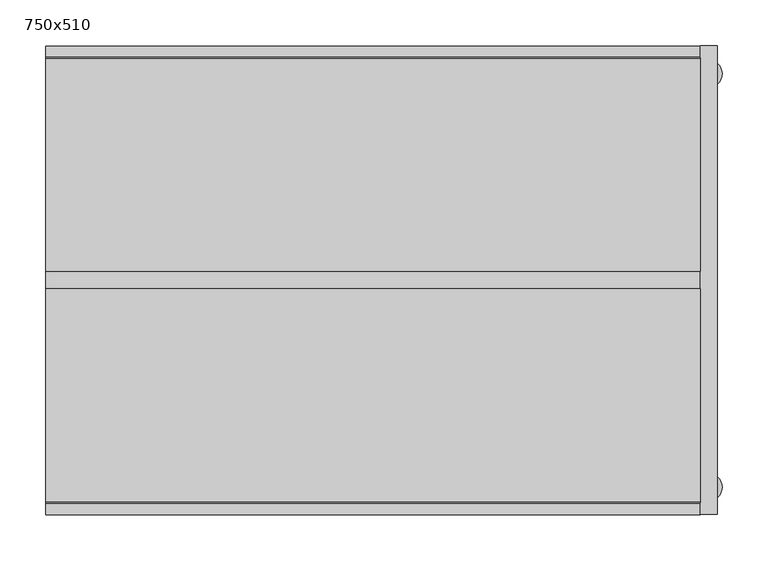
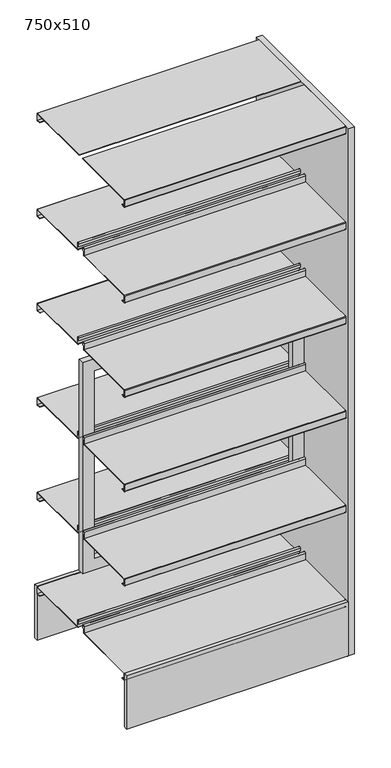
"""IFC4 building model written with IfcOpenShell, lengths in millimetres: furniture geometry, BK Library - Rondus DF - 1800 : 750x510."""

from ifc_helpers import new_model, si_unit, point, frame, frame_2d, origin, origin_with_axes, place, context, project, spatial, polyline, circle_curve, trimmed, segment, composite_curve, outline, extrude, source, transform, mapped, element, save


def furniture_750x510_ac6173c1(model_context):
    return source(origin(), model_context, "Body", "SweptSolid", [
        extrude(outline(polyline([(356.0, 255.0), (356.0, 242.7476624), (-356.0, 242.7476624), (-356.0, 255.0), (356.0, 255.0)])), frame((0.0, 0.0, 13.6999998), z_axis=(0.0, 0.0, 1.0), x_axis=(1.0, 0.0, 0.0)), (0.0, 0.0, 1.0), 181.4999514),
        extrude(outline(polyline([(356.0, -242.7476624), (356.0, -255.0), (-356.0, -255.0), (-356.0, -242.7476624), (356.0, -242.7476624)])), frame((0.0, 0.0, 13.6999998), z_axis=(0.0, 0.0, 1.0), x_axis=(1.0, 0.0, 0.0)), (0.0, 0.0, 1.0), 181.4999514),
        extrude(outline(polyline([(1106.1999512, -356.0), (391.1999512, -356.0), (391.1999512, 356.0), (1106.1999512, 356.0), (1106.1999512, -356.0)]), holes=[polyline([(1066.1999514, -317.5), (1066.1999514, 317.5), (431.1999514, 317.5), (431.1999514, -317.5), (1066.1999514, -317.5)])]), frame((0.0, -9.5, 0.0), z_axis=(0.0, 1.0, 0.0), x_axis=(0.0, 0.0, 1.0)), (0.0, 0.0, 1.0), 19.0),
        extrude(outline(composite_curve([segment(polyline([(9.5, 1800.0), (241.25, 1800.0)]), True, "CONTINUOUS"), segment(trimmed(circle_curve(frame_2d((241.25, 1798.5)), 1.5), [point((241.25, 1800.0))], [point((242.75, 1798.5))], False, "CARTESIAN"), True, "CONTINUOUS"), segment(polyline([(242.75, 1798.5), (242.75, 1776.5)]), True, "CONTINUOUS"), segment(trimmed(circle_curve(frame_2d((241.25, 1776.5)), 1.5), [point((242.75, 1776.5))], [point((241.25, 1775.0))], False, "CARTESIAN"), True, "CONTINUOUS"), segment(polyline([(241.25, 1775.0), (229.25, 1775.0), (229.25, 1776.5), (241.25, 1776.5), (241.25, 1798.0), (9.5, 1798.0), (9.5, 1800.0)]), True, "CONTINUOUS")], self_intersect=False)), frame((-356.0, 0.0, 0.0), z_axis=(1.0, 0.0, 0.0), x_axis=(0.0, 1.0, 0.0)), (0.0, 0.0, 1.0), 712.0),
        extrude(outline(composite_curve([segment(polyline([(17.75, 1475.1999512), (241.25, 1475.1999512)]), True, "CONTINUOUS"), segment(trimmed(circle_curve(frame_2d((241.25, 1473.6999512)), 1.5), [point((241.25, 1475.1999512))], [point((242.75, 1473.6999512))], False, "CARTESIAN"), True, "CONTINUOUS"), segment(polyline([(242.75, 1473.6999512), (242.75, 1452.1999512)]), True, "CONTINUOUS"), segment(trimmed(circle_curve(frame_2d((241.25, 1452.1999512)), 1.5), [point((242.75, 1452.1999512))], [point((241.25, 1450.6999512))], False, "CARTESIAN"), True, "CONTINUOUS"), segment(polyline([(241.25, 1450.6999512), (229.25, 1450.6999512), (229.25, 1452.1999512), (241.25, 1452.1999512), (241.25, 1473.6999512), (17.7048221, 1473.6999512)]), True, "CONTINUOUS"), segment(trimmed(circle_curve(frame_2d((17.7048221, 1475.1547733)), 1.4548221), [point((17.7048221, 1473.6999512))], [point((16.25, 1475.1547733))], False, "CARTESIAN"), True, "CONTINUOUS"), segment(polyline([(16.25, 1475.1547733), (16.25, 1496.7020126)]), True, "CONTINUOUS"), segment(trimmed(circle_curve(frame_2d((14.25, 1496.7020126)), 2.0), [point((16.25, 1496.7020126))], [point((12.25, 1496.7020126))], True, "CARTESIAN"), True, "CONTINUOUS"), segment(polyline([(12.25, 1496.7020126), (12.25, 1488.1999512), (10.75, 1488.1999512), (10.75, 1496.7196336)]), True, "CONTINUOUS"), segment(trimmed(circle_curve(frame_2d((14.25, 1496.7196336)), 3.5), [point((10.75, 1496.7196336))], [point((17.75, 1496.7196336))], False, "CARTESIAN"), True, "CONTINUOUS"), segment(polyline([(17.75, 1496.7196336), (17.75, 1475.1999512)]), True, "CONTINUOUS")], self_intersect=False)), frame((-356.0, 0.0, 0.0), z_axis=(1.0, 0.0, 0.0), x_axis=(0.0, 1.0, 0.0)), (0.0, 0.0, 1.0), 712.0),
        extrude(outline(composite_curve([segment(polyline([(17.75, 1155.1999512), (241.25, 1155.1999512)]), True, "CONTINUOUS"), segment(trimmed(circle_curve(frame_2d((241.25, 1153.6999512)), 1.5), [point((241.25, 1155.1999512))], [point((242.75, 1153.6999512))], False, "CARTESIAN"), True, "CONTINUOUS"), segment(polyline([(242.75, 1153.6999512), (242.75, 1132.1999512)]), True, "CONTINUOUS"), segment(trimmed(circle_curve(frame_2d((241.25, 1132.1999512)), 1.5), [point((242.75, 1132.1999512))], [point((241.25, 1130.6999512))], False, "CARTESIAN"), True, "CONTINUOUS"), segment(polyline([(241.25, 1130.6999512), (229.25, 1130.6999512), (229.25, 1132.1999512), (241.25, 1132.1999512), (241.25, 1153.6999512), (17.7048221, 1153.6999512)]), True, "CONTINUOUS"), segment(trimmed(circle_curve(frame_2d((17.7048221, 1155.1547733)), 1.4548221), [point((17.7048221, 1153.6999512))], [point((16.25, 1155.1547733))], False, "CARTESIAN"), True, "CONTINUOUS"), segment(polyline([(16.25, 1155.1547733), (16.25, 1176.7020126)]), True, "CONTINUOUS"), segment(trimmed(circle_curve(frame_2d((14.25, 1176.7020126)), 2.0), [point((16.25, 1176.7020126))], [point((12.25, 1176.7020126))], True, "CARTESIAN"), True, "CONTINUOUS"), segment(polyline([(12.25, 1176.7020126), (12.25, 1168.1999512), (10.75, 1168.1999512), (10.75, 1176.7196336)]), True, "CONTINUOUS"), segment(trimmed(circle_curve(frame_2d((14.25, 1176.7196336)), 3.5), [point((10.75, 1176.7196336))], [point((17.75, 1176.7196336))], False, "CARTESIAN"), True, "CONTINUOUS"), segment(polyline([(17.75, 1176.7196336), (17.75, 1155.1999512)]), True, "CONTINUOUS")], self_intersect=False)), frame((-356.0, 0.0, 0.0), z_axis=(1.0, 0.0, 0.0), x_axis=(0.0, 1.0, 0.0)), (0.0, 0.0, 1.0), 712.0),
        extrude(outline(composite_curve([segment(polyline([(17.75, 835.1999512), (241.25, 835.1999512)]), True, "CONTINUOUS"), segment(trimmed(circle_curve(frame_2d((241.25, 833.6999512)), 1.5), [point((241.25, 835.1999512))], [point((242.75, 833.6999512))], False, "CARTESIAN"), True, "CONTINUOUS"), segment(polyline([(242.75, 833.6999512), (242.75, 812.1999512)]), True, "CONTINUOUS"), segment(trimmed(circle_curve(frame_2d((241.25, 812.1999512)), 1.5), [point((242.75, 812.1999512))], [point((241.25, 810.6999512))], False, "CARTESIAN"), True, "CONTINUOUS"), segment(polyline([(241.25, 810.6999512), (229.25, 810.6999512), (229.25, 812.1999512), (241.25, 812.1999512), (241.25, 833.6999512), (17.7048221, 833.6999512)]), True, "CONTINUOUS"), segment(trimmed(circle_curve(frame_2d((17.7048221, 835.1547733)), 1.4548221), [point((17.7048221, 833.6999512))], [point((16.25, 835.1547733))], False, "CARTESIAN"), True, "CONTINUOUS"), segment(polyline([(16.25, 835.1547733), (16.25, 856.7020126)]), True, "CONTINUOUS"), segment(trimmed(circle_curve(frame_2d((14.25, 856.7020126)), 2.0), [point((16.25, 856.7020126))], [point((12.25, 856.7020126))], True, "CARTESIAN"), True, "CONTINUOUS"), segment(polyline([(12.25, 856.7020126), (12.25, 848.1999512), (10.75, 848.1999512), (10.75, 856.7196336)]), True, "CONTINUOUS"), segment(trimmed(circle_curve(frame_2d((14.25, 856.7196336)), 3.5), [point((10.75, 856.7196336))], [point((17.75, 856.7196336))], False, "CARTESIAN"), True, "CONTINUOUS"), segment(polyline([(17.75, 856.7196336), (17.75, 835.1999512)]), True, "CONTINUOUS")], self_intersect=False)), frame((-356.0, 0.0, 0.0), z_axis=(1.0, 0.0, 0.0), x_axis=(0.0, 1.0, 0.0)), (0.0, 0.0, 1.0), 712.0),
        extrude(outline(composite_curve([segment(polyline([(17.75, 515.1999512), (241.25, 515.1999512)]), True, "CONTINUOUS"), segment(trimmed(circle_curve(frame_2d((241.25, 513.6999512)), 1.5), [point((241.25, 515.1999512))], [point((242.75, 513.6999512))], False, "CARTESIAN"), True, "CONTINUOUS"), segment(polyline([(242.75, 513.6999512), (242.75, 492.1999512)]), True, "CONTINUOUS"), segment(trimmed(circle_curve(frame_2d((241.25, 492.1999512)), 1.5), [point((242.75, 492.1999512))], [point((241.25, 490.6999512))], False, "CARTESIAN"), True, "CONTINUOUS"), segment(polyline([(241.25, 490.6999512), (229.25, 490.6999512), (229.25, 492.1999512), (241.25, 492.1999512), (241.25, 513.6999512), (17.7048221, 513.6999512)]), True, "CONTINUOUS"), segment(trimmed(circle_curve(frame_2d((17.7048221, 515.1547733)), 1.4548221), [point((17.7048221, 513.6999512))], [point((16.25, 515.1547733))], False, "CARTESIAN"), True, "CONTINUOUS"), segment(polyline([(16.25, 515.1547733), (16.25, 536.7020126)]), True, "CONTINUOUS"), segment(trimmed(circle_curve(frame_2d((14.25, 536.7020126)), 2.0), [point((16.25, 536.7020126))], [point((12.25, 536.7020126))], True, "CARTESIAN"), True, "CONTINUOUS"), segment(polyline([(12.25, 536.7020126), (12.25, 528.1999512), (10.75, 528.1999512), (10.75, 536.7196336)]), True, "CONTINUOUS"), segment(trimmed(circle_curve(frame_2d((14.25, 536.7196336)), 3.5), [point((10.75, 536.7196336))], [point((17.75, 536.7196336))], False, "CARTESIAN"), True, "CONTINUOUS"), segment(polyline([(17.75, 536.7196336), (17.75, 515.1999512)]), True, "CONTINUOUS")], self_intersect=False)), frame((-356.0, 0.0, 0.0), z_axis=(1.0, 0.0, 0.0), x_axis=(0.0, 1.0, 0.0)), (0.0, 0.0, 1.0), 712.0),
        extrude(outline(composite_curve([segment(polyline([(17.75, 195.1999512), (241.25, 195.1999512)]), True, "CONTINUOUS"), segment(trimmed(circle_curve(frame_2d((241.25, 193.6999512)), 1.5), [point((241.25, 195.1999512))], [point((242.75, 193.6999512))], False, "CARTESIAN"), True, "CONTINUOUS"), segment(polyline([(242.75, 193.6999512), (242.75, 172.1999512)]), True, "CONTINUOUS"), segment(trimmed(circle_curve(frame_2d((241.25, 172.1999512)), 1.5), [point((242.75, 172.1999512))], [point((241.25, 170.6999512))], False, "CARTESIAN"), True, "CONTINUOUS"), segment(polyline([(241.25, 170.6999512), (229.25, 170.6999512), (229.25, 172.1999512), (241.25, 172.1999512), (241.25, 193.6999512), (17.7048221, 193.6999512)]), True, "CONTINUOUS"), segment(trimmed(circle_curve(frame_2d((17.7048221, 195.1547733)), 1.4548221), [point((17.7048221, 193.6999512))], [point((16.25, 195.1547733))], False, "CARTESIAN"), True, "CONTINUOUS"), segment(polyline([(16.25, 195.1547733), (16.25, 216.7020126)]), True, "CONTINUOUS"), segment(trimmed(circle_curve(frame_2d((14.25, 216.7020126)), 2.0), [point((16.25, 216.7020126))], [point((12.25, 216.7020126))], True, "CARTESIAN"), True, "CONTINUOUS"), segment(polyline([(12.25, 216.7020126), (12.25, 208.1999512), (10.75, 208.1999512), (10.75, 216.7196336)]), True, "CONTINUOUS"), segment(trimmed(circle_curve(frame_2d((14.25, 216.7196336)), 3.5), [point((10.75, 216.7196336))], [point((17.75, 216.7196336))], False, "CARTESIAN"), True, "CONTINUOUS"), segment(polyline([(17.75, 216.7196336), (17.75, 195.1999512)]), True, "CONTINUOUS")], self_intersect=False)), frame((-356.0, 0.0, 0.0), z_axis=(1.0, 0.0, 0.0), x_axis=(0.0, 1.0, 0.0)), (0.0, 0.0, 1.0), 712.0),
        extrude(outline(composite_curve([segment(polyline([(-9.5, 1800.0), (-9.5, 1798.0), (-241.25, 1798.0), (-241.25, 1776.5), (-229.25, 1776.5), (-229.25, 1775.0), (-241.25, 1775.0)]), True, "CONTINUOUS"), segment(trimmed(circle_curve(frame_2d((-241.25, 1776.5)), 1.5), [point((-241.25, 1775.0))], [point((-242.75, 1776.5))], False, "CARTESIAN"), True, "CONTINUOUS"), segment(polyline([(-242.75, 1776.5), (-242.75, 1798.5)]), True, "CONTINUOUS"), segment(trimmed(circle_curve(frame_2d((-241.25, 1798.5)), 1.5), [point((-242.75, 1798.5))], [point((-241.25, 1800.0))], False, "CARTESIAN"), True, "CONTINUOUS"), segment(polyline([(-241.25, 1800.0), (-9.5, 1800.0)]), True, "CONTINUOUS")], self_intersect=False)), frame((-356.0, 0.0, 0.0), z_axis=(1.0, 0.0, 0.0), x_axis=(0.0, 1.0, 0.0)), (0.0, 0.0, 1.0), 712.0),
        extrude(outline(composite_curve([segment(polyline([(-17.75, 1475.1999512), (-17.75, 1496.7196336)]), True, "CONTINUOUS"), segment(trimmed(circle_curve(frame_2d((-14.25, 1496.7196336)), 3.5), [point((-17.75, 1496.7196336))], [point((-10.75, 1496.7196336))], False, "CARTESIAN"), True, "CONTINUOUS"), segment(polyline([(-10.75, 1496.7196336), (-10.75, 1488.1999512), (-12.25, 1488.1999512), (-12.25, 1496.7020126)]), True, "CONTINUOUS"), segment(trimmed(circle_curve(frame_2d((-14.25, 1496.7020126)), 2.0), [point((-12.25, 1496.7020126))], [point((-16.25, 1496.7020126))], True, "CARTESIAN"), True, "CONTINUOUS"), segment(polyline([(-16.25, 1496.7020126), (-16.25, 1475.1547733)]), True, "CONTINUOUS"), segment(trimmed(circle_curve(frame_2d((-17.7048221, 1475.1547733)), 1.4548221), [point((-16.25, 1475.1547733))], [point((-17.7048221, 1473.6999512))], False, "CARTESIAN"), True, "CONTINUOUS"), segment(polyline([(-17.7048221, 1473.6999512), (-241.25, 1473.6999512), (-241.25, 1452.1999512), (-229.25, 1452.1999512), (-229.25, 1450.6999512), (-241.25, 1450.6999512)]), True, "CONTINUOUS"), segment(trimmed(circle_curve(frame_2d((-241.25, 1452.1999512)), 1.5), [point((-241.25, 1450.6999512))], [point((-242.75, 1452.1999512))], False, "CARTESIAN"), True, "CONTINUOUS"), segment(polyline([(-242.75, 1452.1999512), (-242.75, 1473.6999512)]), True, "CONTINUOUS"), segment(trimmed(circle_curve(frame_2d((-241.25, 1473.6999512)), 1.5), [point((-242.75, 1473.6999512))], [point((-241.25, 1475.1999512))], False, "CARTESIAN"), True, "CONTINUOUS"), segment(polyline([(-241.25, 1475.1999512), (-17.75, 1475.1999512)]), True, "CONTINUOUS")], self_intersect=False)), frame((-356.0, 0.0, 0.0), z_axis=(1.0, 0.0, 0.0), x_axis=(0.0, 1.0, 0.0)), (0.0, 0.0, 1.0), 712.0),
        extrude(outline(composite_curve([segment(polyline([(-17.75, 1155.1999512), (-17.75, 1176.7196336)]), True, "CONTINUOUS"), segment(trimmed(circle_curve(frame_2d((-14.25, 1176.7196336)), 3.5), [point((-17.75, 1176.7196336))], [point((-10.75, 1176.7196336))], False, "CARTESIAN"), True, "CONTINUOUS"), segment(polyline([(-10.75, 1176.7196336), (-10.75, 1168.1999512), (-12.25, 1168.1999512), (-12.25, 1176.7020126)]), True, "CONTINUOUS"), segment(trimmed(circle_curve(frame_2d((-14.25, 1176.7020126)), 2.0), [point((-12.25, 1176.7020126))], [point((-16.25, 1176.7020126))], True, "CARTESIAN"), True, "CONTINUOUS"), segment(polyline([(-16.25, 1176.7020126), (-16.25, 1155.1547733)]), True, "CONTINUOUS"), segment(trimmed(circle_curve(frame_2d((-17.7048221, 1155.1547733)), 1.4548221), [point((-16.25, 1155.1547733))], [point((-17.7048221, 1153.6999512))], False, "CARTESIAN"), True, "CONTINUOUS"), segment(polyline([(-17.7048221, 1153.6999512), (-241.25, 1153.6999512), (-241.25, 1132.1999512), (-229.25, 1132.1999512), (-229.25, 1130.6999512), (-241.25, 1130.6999512)]), True, "CONTINUOUS"), segment(trimmed(circle_curve(frame_2d((-241.25, 1132.1999512)), 1.5), [point((-241.25, 1130.6999512))], [point((-242.75, 1132.1999512))], False, "CARTESIAN"), True, "CONTINUOUS"), segment(polyline([(-242.75, 1132.1999512), (-242.75, 1153.6999512)]), True, "CONTINUOUS"), segment(trimmed(circle_curve(frame_2d((-241.25, 1153.6999512)), 1.5), [point((-242.75, 1153.6999512))], [point((-241.25, 1155.1999512))], False, "CARTESIAN"), True, "CONTINUOUS"), segment(polyline([(-241.25, 1155.1999512), (-17.75, 1155.1999512)]), True, "CONTINUOUS")], self_intersect=False)), frame((-356.0, 0.0, 0.0), z_axis=(1.0, 0.0, 0.0), x_axis=(0.0, 1.0, 0.0)), (0.0, 0.0, 1.0), 712.0),
        extrude(outline(composite_curve([segment(polyline([(-17.75, 835.1999512), (-17.75, 856.7196336)]), True, "CONTINUOUS"), segment(trimmed(circle_curve(frame_2d((-14.25, 856.7196336)), 3.5), [point((-17.75, 856.7196336))], [point((-10.75, 856.7196336))], False, "CARTESIAN"), True, "CONTINUOUS"), segment(polyline([(-10.75, 856.7196336), (-10.75, 848.1999512), (-12.25, 848.1999512), (-12.25, 856.7020126)]), True, "CONTINUOUS"), segment(trimmed(circle_curve(frame_2d((-14.25, 856.7020126)), 2.0), [point((-12.25, 856.7020126))], [point((-16.25, 856.7020126))], True, "CARTESIAN"), True, "CONTINUOUS"), segment(polyline([(-16.25, 856.7020126), (-16.25, 835.1547733)]), True, "CONTINUOUS"), segment(trimmed(circle_curve(frame_2d((-17.7048221, 835.1547733)), 1.4548221), [point((-16.25, 835.1547733))], [point((-17.7048221, 833.6999512))], False, "CARTESIAN"), True, "CONTINUOUS"), segment(polyline([(-17.7048221, 833.6999512), (-241.25, 833.6999512), (-241.25, 812.1999512), (-229.25, 812.1999512), (-229.25, 810.6999512), (-241.25, 810.6999512)]), True, "CONTINUOUS"), segment(trimmed(circle_curve(frame_2d((-241.25, 812.1999512)), 1.5), [point((-241.25, 810.6999512))], [point((-242.75, 812.1999512))], False, "CARTESIAN"), True, "CONTINUOUS"), segment(polyline([(-242.75, 812.1999512), (-242.75, 833.6999512)]), True, "CONTINUOUS"), segment(trimmed(circle_curve(frame_2d((-241.25, 833.6999512)), 1.5), [point((-242.75, 833.6999512))], [point((-241.25, 835.1999512))], False, "CARTESIAN"), True, "CONTINUOUS"), segment(polyline([(-241.25, 835.1999512), (-17.75, 835.1999512)]), True, "CONTINUOUS")], self_intersect=False)), frame((-356.0, 0.0, 0.0), z_axis=(1.0, 0.0, 0.0), x_axis=(0.0, 1.0, 0.0)), (0.0, 0.0, 1.0), 712.0),
        extrude(outline(composite_curve([segment(polyline([(-17.75, 515.1999512), (-17.75, 536.7196336)]), True, "CONTINUOUS"), segment(trimmed(circle_curve(frame_2d((-14.25, 536.7196336)), 3.5), [point((-17.75, 536.7196336))], [point((-10.75, 536.7196336))], False, "CARTESIAN"), True, "CONTINUOUS"), segment(polyline([(-10.75, 536.7196336), (-10.75, 528.1999512), (-12.25, 528.1999512), (-12.25, 536.7020126)]), True, "CONTINUOUS"), segment(trimmed(circle_curve(frame_2d((-14.25, 536.7020126)), 2.0), [point((-12.25, 536.7020126))], [point((-16.25, 536.7020126))], True, "CARTESIAN"), True, "CONTINUOUS"), segment(polyline([(-16.25, 536.7020126), (-16.25, 515.1547733)]), True, "CONTINUOUS"), segment(trimmed(circle_curve(frame_2d((-17.7048221, 515.1547733)), 1.4548221), [point((-16.25, 515.1547733))], [point((-17.7048221, 513.6999512))], False, "CARTESIAN"), True, "CONTINUOUS"), segment(polyline([(-17.7048221, 513.6999512), (-241.25, 513.6999512), (-241.25, 492.1999512), (-229.25, 492.1999512), (-229.25, 490.6999512), (-241.25, 490.6999512)]), True, "CONTINUOUS"), segment(trimmed(circle_curve(frame_2d((-241.25, 492.1999512)), 1.5), [point((-241.25, 490.6999512))], [point((-242.75, 492.1999512))], False, "CARTESIAN"), True, "CONTINUOUS"), segment(polyline([(-242.75, 492.1999512), (-242.75, 513.6999512)]), True, "CONTINUOUS"), segment(trimmed(circle_curve(frame_2d((-241.25, 513.6999512)), 1.5), [point((-242.75, 513.6999512))], [point((-241.25, 515.1999512))], False, "CARTESIAN"), True, "CONTINUOUS"), segment(polyline([(-241.25, 515.1999512), (-17.75, 515.1999512)]), True, "CONTINUOUS")], self_intersect=False)), frame((-356.0, 0.0, 0.0), z_axis=(1.0, 0.0, 0.0), x_axis=(0.0, 1.0, 0.0)), (0.0, 0.0, 1.0), 712.0),
        extrude(outline(composite_curve([segment(polyline([(-17.75, 195.1999512), (-17.75, 216.7196336)]), True, "CONTINUOUS"), segment(trimmed(circle_curve(frame_2d((-14.25, 216.7196336)), 3.5), [point((-17.75, 216.7196336))], [point((-10.75, 216.7196336))], False, "CARTESIAN"), True, "CONTINUOUS"), segment(polyline([(-10.75, 216.7196336), (-10.75, 208.1999512), (-12.25, 208.1999512), (-12.25, 216.7020126)]), True, "CONTINUOUS"), segment(trimmed(circle_curve(frame_2d((-14.25, 216.7020126)), 2.0), [point((-12.25, 216.7020126))], [point((-16.25, 216.7020126))], True, "CARTESIAN"), True, "CONTINUOUS"), segment(polyline([(-16.25, 216.7020126), (-16.25, 195.1547733)]), True, "CONTINUOUS"), segment(trimmed(circle_curve(frame_2d((-17.7048221, 195.1547733)), 1.4548221), [point((-16.25, 195.1547733))], [point((-17.7048221, 193.6999512))], False, "CARTESIAN"), True, "CONTINUOUS"), segment(polyline([(-17.7048221, 193.6999512), (-241.25, 193.6999512), (-241.25, 172.1999512), (-229.25, 172.1999512), (-229.25, 170.6999512), (-241.25, 170.6999512)]), True, "CONTINUOUS"), segment(trimmed(circle_curve(frame_2d((-241.25, 172.1999512)), 1.5), [point((-241.25, 170.6999512))], [point((-242.75, 172.1999512))], False, "CARTESIAN"), True, "CONTINUOUS"), segment(polyline([(-242.75, 172.1999512), (-242.75, 193.6999512)]), True, "CONTINUOUS"), segment(trimmed(circle_curve(frame_2d((-241.25, 193.6999512)), 1.5), [point((-242.75, 193.6999512))], [point((-241.25, 195.1999512))], False, "CARTESIAN"), True, "CONTINUOUS"), segment(polyline([(-241.25, 195.1999512), (-17.75, 195.1999512)]), True, "CONTINUOUS")], self_intersect=False)), frame((-356.0, 0.0, 0.0), z_axis=(1.0, 0.0, 0.0), x_axis=(0.0, 1.0, 0.0)), (0.0, 0.0, 1.0), 712.0),
        extrude(outline(polyline([(356.0, 255.0), (375.0, 255.0), (375.0, -255.0), (356.0, -255.0), (356.0, 255.0)])), frame((0.0, 0.0, 13.6999998), z_axis=(0.0, 0.0, 1.0), x_axis=(1.0, 0.0, 0.0)), (0.0, 0.0, 1.0), 1786.3000002),
        extrude(outline(composite_curve([segment(trimmed(circle_curve(frame_2d((365.5005427, 224.9952633)), 14.4994573), [point((380.0, 224.9952633))], [point((351.0010853, 224.9952633))], False, "CARTESIAN"), True, "CONTINUOUS"), segment(trimmed(circle_curve(frame_2d((365.5005427, 224.9952633)), 14.4994573), [point((351.0010853, 224.9952633))], [point((380.0, 224.9952633))], False, "CARTESIAN"), True, "CONTINUOUS")], self_intersect=False)), origin_with_axes(), (0.0, 0.0, 1.0), 13.6999998),
        extrude(outline(composite_curve([segment(trimmed(circle_curve(frame_2d((365.5005427, -224.9952633)), 14.4994573), [point((380.0, -224.9952633))], [point((351.0010853, -224.9952633))], False, "CARTESIAN"), True, "CONTINUOUS"), segment(trimmed(circle_curve(frame_2d((365.5005427, -224.9952633)), 14.4994573), [point((351.0010853, -224.9952633))], [point((380.0, -224.9952633))], False, "CARTESIAN"), True, "CONTINUOUS")], self_intersect=False)), origin_with_axes(), (0.0, 0.0, 1.0), 13.6999998),
    ])


if __name__ == "__main__":
    model = new_model("IFC4")
    model_context = context("Model", 3, world=origin())
    ifc_project = project(units=[si_unit("LENGTHUNIT", "METRE", prefix="MILLI")], contexts=[model_context])
    site = spatial("IfcSite", under=ifc_project)
    building = spatial("IfcBuilding", under=site)
    placement = place(None, origin())
    furniture_750x510_shape = furniture_750x510_ac6173c1(model_context)
    element("IfcFurniture", 1, ObjectType="BK Library - Rondus DF - 1800 : 750x510", at=placement, inside=building, context=model_context, shape_type="MappedRepresentation", body=[
        mapped(furniture_750x510_shape, transform((0.0, 0.0, 0.0), x_axis=(1.0, 0.0, 0.0), y_axis=(0.0, 1.0, 0.0), z_axis=(0.0, 0.0, 1.0))),
    ])
    save(model, "model.ifc")
